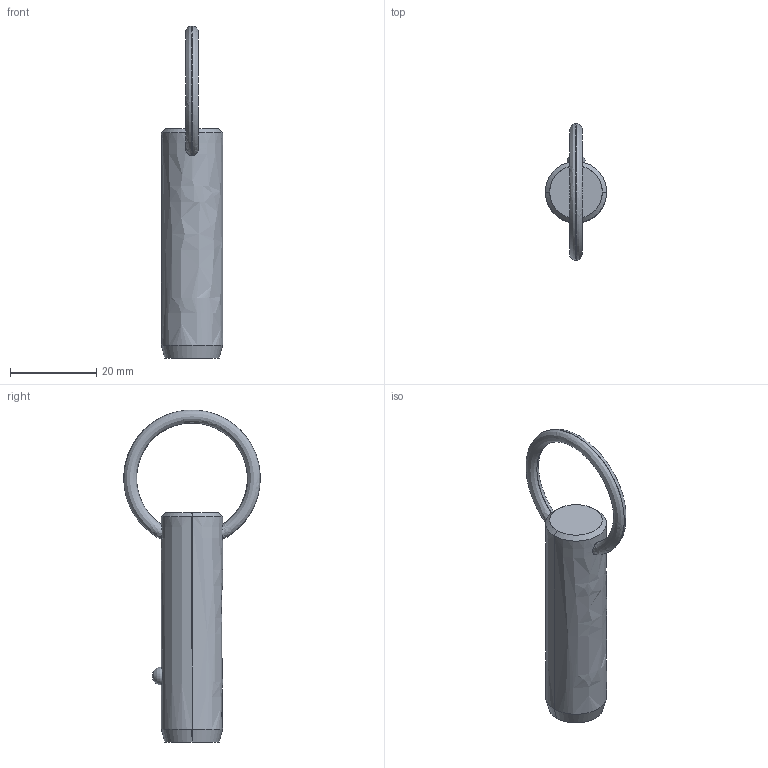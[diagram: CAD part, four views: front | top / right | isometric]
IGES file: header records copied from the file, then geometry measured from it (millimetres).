
Start section: SolidWorks IGES file using analytic representation for surfaces
Global section: file name: C:\Users\liam_\OneDrive\Documents\WORK\Work for WixRoyd\Job Files\J-00019 - Matt Davis CAD Checking\04. CAD Drawings\automotion20190605\P1250.2_v2\P1250.2_v2_20190729_IGES\P1250.056-110.igs; native system: SolidWorks 2017; preprocessor: SolidWorks 2017; author: liam_; date: 190729.231507; units: millimetre
Bounding box: 14.2 x 31.69 x 77 mm (x, y, z)
Surface area: 3339.1 mm2 (no closed solid volume)
Topology: 0 solids, 0 shells, 12 faces, 285 edges, 283 vertices
Faces by surface type: revolution 8, bspline 4
